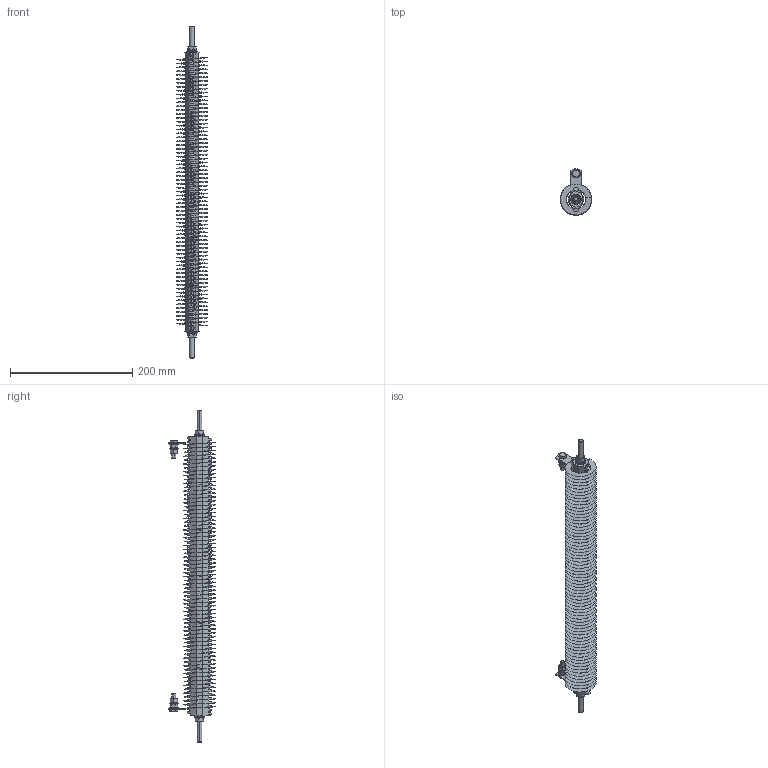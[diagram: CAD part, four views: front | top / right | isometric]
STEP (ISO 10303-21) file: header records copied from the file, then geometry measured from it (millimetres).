
FILE_DESCRIPTION (( 'STEP AP214' ), '1' );
FILE_NAME ('EDGS1200.STEP', '2014-06-05T12:44:33', ( '' ), ( '' ), 'SwSTEP 2.0', 'SolidWorks 2012', '' );
FILE_SCHEMA (( 'AUTOMOTIVE_DESIGN' ));
Length unit declared in the file: millimetre
Products named in the file (14): 032-012 - STUD MOUNT CERAMICS_032-012-TSMCL; Hex Nut01_0.3125" - 0.26" thk; Lock Washer_0.3125" - 0.08" thk; Flat Washer_.3125" - .68" - .05"thk; Flat Washer_.25" - .5" - .04"thk; 12-800-011; lock washer spring_Regular LW 0.25; hex nut_HNUT 0.2500-20-D-C; Hex Head Srew_HBOLT 0.2500-20x1x1-C; 326167; Helical Coil_1200; 032-012 - STUD MOUNT CERAMICS_032-012-TSECL; 0.30 inch threaded rod_0.3125" - 21.375" long >; EDGS1200
Assembly tree (30 placements, depth 2):
  EDGS1200
    0.30 inch threaded rod_0.3125" - 21.375" long >
    032-012 - STUD MOUNT CERAMICS_032-012-TSECL  x2
    Helical Coil_1200
    326167  x2
    Hex Head Srew_HBOLT 0.2500-20x1x1-C  x2
    hex nut_HNUT 0.2500-20-D-C  x4
    lock washer spring_Regular LW 0.25  x2
    12-800-011  x2
    Flat Washer_.25" - .5" - .04"thk  x4
    Flat Washer_.3125" - .68" - .05"thk  x2
    Lock Washer_0.3125" - 0.08" thk  x2
    Hex Nut01_0.3125" - 0.26" thk  x2
    032-012 - STUD MOUNT CERAMICS_032-012-TSMCL  x4
Bounding box: 50.8 x 75.4 x 542.93 mm (x, y, z)
Volume: 277750.2 mm3; surface area: 265705.9 mm2
Topology: 30 solids, 30 shells, 1018 faces, 2746 edges, 1780 vertices
Faces by surface type: bspline 448, plane 336, cone 120, cylinder 98, torus 16
Entity records: 136257 total; most frequent: CARTESIAN_POINT 128124, ORIENTED_EDGE 1952, DIRECTION 1051, EDGE_CURVE 976, VERTEX_POINT 632, AXIS2_PLACEMENT_3D 392, EDGE_LOOP 382, ADVANCED_FACE 368
